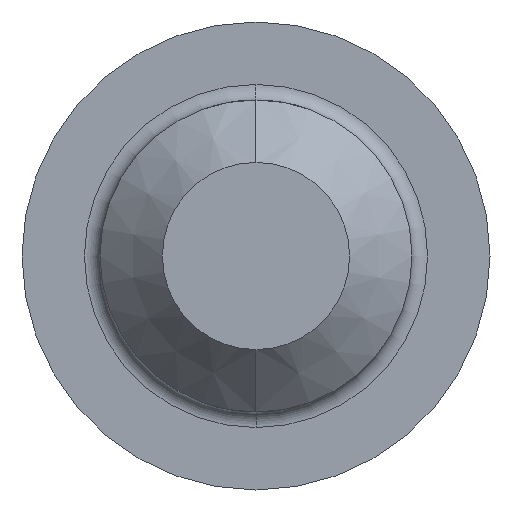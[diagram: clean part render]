
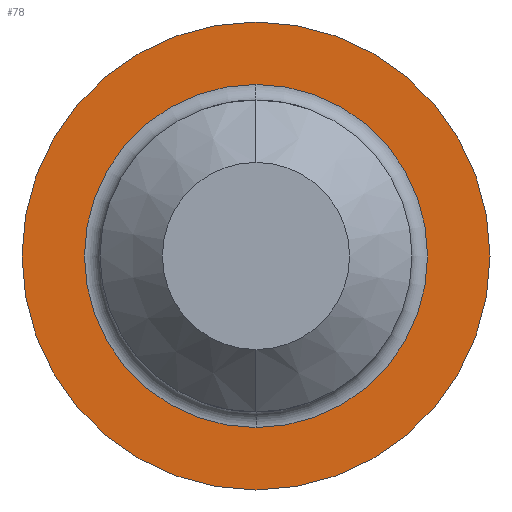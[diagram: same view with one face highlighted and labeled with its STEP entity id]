
A CAD part, left-side view. The second image highlights one B-rep face of the part: STEP entity #78.
In plain terms, the highlighted planar face has unit normal (-1, 0, 0).
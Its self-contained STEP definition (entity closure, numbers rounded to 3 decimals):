
#24 = EDGE_CURVE ( 'NONE', #161, #28, #343, .T. ) ;
#28 = VERTEX_POINT ( 'NONE', #296 ) ;
#62 = EDGE_CURVE ( 'NONE', #64, #156, #322, .T. ) ;
#64 = VERTEX_POINT ( 'NONE', #235 ) ;
#78 = ADVANCED_FACE ( 'NONE', ( #284, #213 ), #285, .F. ) ;
#79 = ORIENTED_EDGE ( 'NONE', *, *, #150, .T. ) ;
#129 = ORIENTED_EDGE ( 'NONE', *, *, #147, .T. ) ;
#142 = EDGE_LOOP ( 'NONE', ( #155, #129 ) ) ;
#146 = EDGE_LOOP ( 'NONE', ( #79, #149 ) ) ;
#147 = EDGE_CURVE ( 'NONE', #156, #64, #428, .T. ) ;
#149 = ORIENTED_EDGE ( 'NONE', *, *, #24, .T. ) ;
#150 = EDGE_CURVE ( 'NONE', #28, #161, #445, .T. ) ;
#155 = ORIENTED_EDGE ( 'NONE', *, *, #62, .T. ) ;
#156 = VERTEX_POINT ( 'NONE', #436 ) ;
#161 = VERTEX_POINT ( 'NONE', #455 ) ;
#205 = AXIS2_PLACEMENT_3D ( 'NONE', #275, #274, #273 ) ;
#213 = FACE_OUTER_BOUND ( 'NONE', #142, .T. ) ;
#232 = DIRECTION ( 'NONE',  ( 0., 0., 1. ) ) ;
#233 = DIRECTION ( 'NONE',  ( -1., 0., 0. ) ) ;
#235 = CARTESIAN_POINT ( 'NONE',  ( 0., 0., 4.5 ) ) ;
#246 = CARTESIAN_POINT ( 'NONE',  ( 0., 0., 0. ) ) ;
#254 = AXIS2_PLACEMENT_3D ( 'NONE', #246, #233, #232 ) ;
#273 = DIRECTION ( 'NONE',  ( 0., 0., -1. ) ) ;
#274 = DIRECTION ( 'NONE',  ( 1., 0., 0. ) ) ;
#275 = CARTESIAN_POINT ( 'NONE',  ( 0., 4.5, 0. ) ) ;
#284 = FACE_BOUND ( 'NONE', #146, .T. ) ;
#285 = PLANE ( 'NONE',  #205 ) ;
#296 = CARTESIAN_POINT ( 'NONE',  ( 0., 0., -3.3 ) ) ;
#303 = DIRECTION ( 'NONE',  ( 0., 0., -1. ) ) ;
#304 = DIRECTION ( 'NONE',  ( 1., 0., 0. ) ) ;
#305 = CARTESIAN_POINT ( 'NONE',  ( 0., 0., 0. ) ) ;
#322 = CIRCLE ( 'NONE', #254, 4.5 ) ;
#343 = CIRCLE ( 'NONE', #379, 3.3 ) ;
#379 = AXIS2_PLACEMENT_3D ( 'NONE', #305, #304, #303 ) ;
#428 = CIRCLE ( 'NONE', #430, 4.5 ) ;
#429 = DIRECTION ( 'NONE',  ( -1., 0., 0. ) ) ;
#430 = AXIS2_PLACEMENT_3D ( 'NONE', #471, #429, #477 ) ;
#436 = CARTESIAN_POINT ( 'NONE',  ( 0., 0., -4.5 ) ) ;
#445 = CIRCLE ( 'NONE', #452, 3.3 ) ;
#449 = DIRECTION ( 'NONE',  ( 0., 0., -1. ) ) ;
#450 = DIRECTION ( 'NONE',  ( 1., 0., 0. ) ) ;
#451 = CARTESIAN_POINT ( 'NONE',  ( 0., 0., 0. ) ) ;
#452 = AXIS2_PLACEMENT_3D ( 'NONE', #451, #450, #449 ) ;
#455 = CARTESIAN_POINT ( 'NONE',  ( 0., 0., 3.3 ) ) ;
#471 = CARTESIAN_POINT ( 'NONE',  ( 0., 0., 0. ) ) ;
#477 = DIRECTION ( 'NONE',  ( 0., 0., 1. ) ) ;
